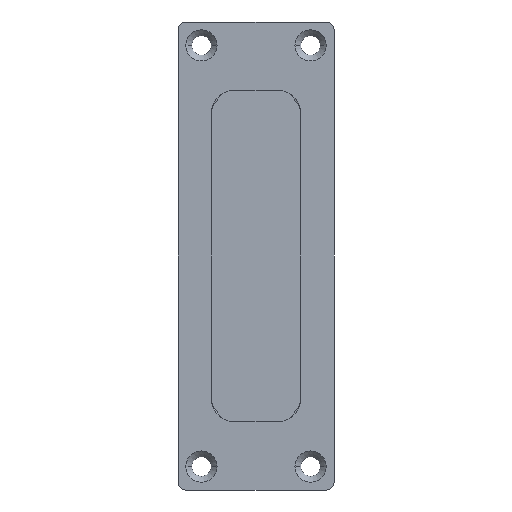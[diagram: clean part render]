
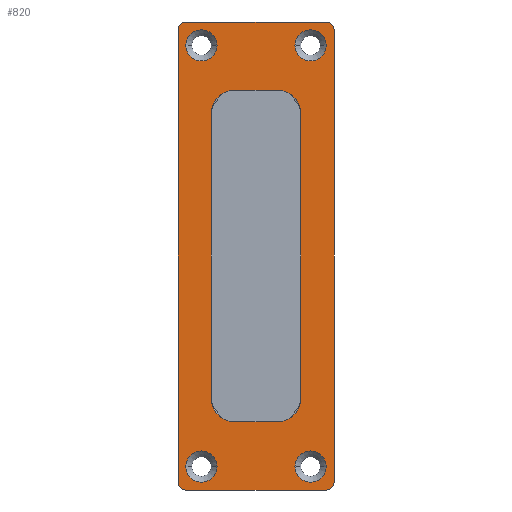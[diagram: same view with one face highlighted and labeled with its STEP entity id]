
A CAD part, front view. The second image highlights one B-rep face of the part: STEP entity #820.
In plain terms, the highlighted planar face has unit normal (0, -1, 0).
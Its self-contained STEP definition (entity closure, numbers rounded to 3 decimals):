
#820=ADVANCED_FACE('',(#1535,#1536,#1537,#1538,#1539,#1540),#1541,.T.);
#1535=FACE_BOUND('',#2493,.T.);
#1536=FACE_BOUND('',#2494,.T.);
#1537=FACE_BOUND('',#2495,.T.);
#1538=FACE_BOUND('',#2496,.T.);
#1539=FACE_OUTER_BOUND('',#2497,.T.);
#1540=FACE_BOUND('',#2498,.T.);
#1541=PLANE('',#2499);
#2493=EDGE_LOOP('',(#3510,#3511));
#2494=EDGE_LOOP('',(#3512,#3513));
#2495=EDGE_LOOP('',(#3514,#3515));
#2496=EDGE_LOOP('',(#3516,#3517));
#2497=EDGE_LOOP('',(#3518,#3519,#3520,#3521,#3522,#3523,#3524,#3525,#3526,#3527,#3528,#3529));
#2498=EDGE_LOOP('',(#3530,#3531,#3532,#3533,#3534,#3535,#3536,#3537));
#2499=AXIS2_PLACEMENT_3D('',#3538,#3539,#3540);
#3510=ORIENTED_EDGE('',*,*,#4436,.T.);
#3511=ORIENTED_EDGE('',*,*,#4608,.T.);
#3512=ORIENTED_EDGE('',*,*,#4401,.T.);
#3513=ORIENTED_EDGE('',*,*,#4658,.T.);
#3514=ORIENTED_EDGE('',*,*,#4406,.T.);
#3515=ORIENTED_EDGE('',*,*,#4656,.T.);
#3516=ORIENTED_EDGE('',*,*,#4411,.T.);
#3517=ORIENTED_EDGE('',*,*,#4654,.T.);
#3518=ORIENTED_EDGE('',*,*,#4416,.F.);
#3519=ORIENTED_EDGE('',*,*,#4650,.T.);
#3520=ORIENTED_EDGE('',*,*,#4647,.F.);
#3521=ORIENTED_EDGE('',*,*,#4421,.F.);
#3522=ORIENTED_EDGE('',*,*,#4645,.T.);
#3523=ORIENTED_EDGE('',*,*,#4642,.F.);
#3524=ORIENTED_EDGE('',*,*,#4426,.F.);
#3525=ORIENTED_EDGE('',*,*,#4640,.T.);
#3526=ORIENTED_EDGE('',*,*,#4637,.F.);
#3527=ORIENTED_EDGE('',*,*,#4431,.F.);
#3528=ORIENTED_EDGE('',*,*,#4635,.T.);
#3529=ORIENTED_EDGE('',*,*,#4652,.F.);
#3530=ORIENTED_EDGE('',*,*,#4632,.T.);
#3531=ORIENTED_EDGE('',*,*,#4629,.T.);
#3532=ORIENTED_EDGE('',*,*,#4626,.T.);
#3533=ORIENTED_EDGE('',*,*,#4623,.T.);
#3534=ORIENTED_EDGE('',*,*,#4620,.T.);
#3535=ORIENTED_EDGE('',*,*,#4617,.T.);
#3536=ORIENTED_EDGE('',*,*,#4614,.T.);
#3537=ORIENTED_EDGE('',*,*,#4610,.T.);
#3538=CARTESIAN_POINT('',(0.,-2.0,0.0));
#3539=DIRECTION('',(0.0,-1.0,0.0));
#3540=DIRECTION('',(0.0,0.0,-1.0));
#4401=EDGE_CURVE('',#5159,#5163,#5165,.T.);
#4406=EDGE_CURVE('',#5168,#5172,#5174,.T.);
#4411=EDGE_CURVE('',#5177,#5181,#5183,.T.);
#4416=EDGE_CURVE('',#5190,#5186,#5192,.T.);
#4421=EDGE_CURVE('',#5199,#5195,#5201,.T.);
#4426=EDGE_CURVE('',#5208,#5204,#5210,.T.);
#4431=EDGE_CURVE('',#5217,#5213,#5219,.T.);
#4436=EDGE_CURVE('',#5222,#5226,#5228,.T.);
#4608=EDGE_CURVE('',#5226,#5222,#5484,.T.);
#4610=EDGE_CURVE('',#5486,#5487,#5488,.T.);
#4614=EDGE_CURVE('',#5492,#5486,#5493,.T.);
#4617=EDGE_CURVE('',#5496,#5492,#5497,.T.);
#4620=EDGE_CURVE('',#5500,#5496,#5501,.T.);
#4623=EDGE_CURVE('',#5504,#5500,#5505,.T.);
#4626=EDGE_CURVE('',#5508,#5504,#5509,.T.);
#4629=EDGE_CURVE('',#5512,#5508,#5513,.T.);
#4632=EDGE_CURVE('',#5487,#5512,#5516,.T.);
#4635=EDGE_CURVE('',#5217,#5518,#5520,.T.);
#4637=EDGE_CURVE('',#5213,#5522,#5523,.T.);
#4640=EDGE_CURVE('',#5208,#5522,#5526,.T.);
#4642=EDGE_CURVE('',#5204,#5528,#5529,.T.);
#4645=EDGE_CURVE('',#5199,#5528,#5532,.T.);
#4647=EDGE_CURVE('',#5195,#5534,#5535,.T.);
#4650=EDGE_CURVE('',#5190,#5534,#5538,.T.);
#4652=EDGE_CURVE('',#5186,#5518,#5540,.T.);
#4654=EDGE_CURVE('',#5181,#5177,#5542,.T.);
#4656=EDGE_CURVE('',#5172,#5168,#5544,.T.);
#4658=EDGE_CURVE('',#5163,#5159,#5546,.T.);
#5159=VERTEX_POINT('',#5871);
#5163=VERTEX_POINT('',#5876);
#5165=CIRCLE('',#5879,4.0);
#5168=VERTEX_POINT('',#5882);
#5172=VERTEX_POINT('',#5887);
#5174=CIRCLE('',#5890,4.0);
#5177=VERTEX_POINT('',#5893);
#5181=VERTEX_POINT('',#5898);
#5183=CIRCLE('',#5901,4.0);
#5186=VERTEX_POINT('',#5904);
#5190=VERTEX_POINT('',#5909);
#5192=CIRCLE('',#5912,2.0);
#5195=VERTEX_POINT('',#5915);
#5199=VERTEX_POINT('',#5920);
#5201=CIRCLE('',#5923,2.0);
#5204=VERTEX_POINT('',#5926);
#5208=VERTEX_POINT('',#5931);
#5210=CIRCLE('',#5934,2.0);
#5213=VERTEX_POINT('',#5937);
#5217=VERTEX_POINT('',#5942);
#5219=CIRCLE('',#5945,2.0);
#5222=VERTEX_POINT('',#5948);
#5226=VERTEX_POINT('',#5953);
#5228=CIRCLE('',#5956,4.0);
#5484=CIRCLE('',#6288,4.0);
#5486=VERTEX_POINT('',#6290);
#5487=VERTEX_POINT('',#6291);
#5488=LINE('',#6292,#6293);
#5492=VERTEX_POINT('',#6299);
#5493=CIRCLE('',#6300,6.);
#5496=VERTEX_POINT('',#6304);
#5497=LINE('',#6305,#6306);
#5500=VERTEX_POINT('',#6310);
#5501=CIRCLE('',#6311,6.0);
#5504=VERTEX_POINT('',#6315);
#5505=LINE('',#6316,#6317);
#5508=VERTEX_POINT('',#6321);
#5509=CIRCLE('',#6322,6.);
#5512=VERTEX_POINT('',#6326);
#5513=LINE('',#6327,#6328);
#5516=CIRCLE('',#6332,6.0);
#5518=VERTEX_POINT('',#6334);
#5520=LINE('',#6337,#6338);
#5522=VERTEX_POINT('',#6340);
#5523=CIRCLE('',#6341,2.0);
#5526=LINE('',#6345,#6346);
#5528=VERTEX_POINT('',#6348);
#5529=CIRCLE('',#6349,2.0);
#5532=LINE('',#6353,#6354);
#5534=VERTEX_POINT('',#6356);
#5535=CIRCLE('',#6357,2.0);
#5538=LINE('',#6361,#6362);
#5540=CIRCLE('',#6364,2.0);
#5542=CIRCLE('',#6366,4.0);
#5544=CIRCLE('',#6368,4.0);
#5546=CIRCLE('',#6370,4.0);
#5871=CARTESIAN_POINT('',(-18.0,-2.0,54.0));
#5876=CARTESIAN_POINT('',(-10.,-2.0,54.0));
#5879=AXIS2_PLACEMENT_3D('',#6756,#6757,#6758);
#5882=CARTESIAN_POINT('',(10.,-2.0,54.0));
#5887=CARTESIAN_POINT('',(18.,-2.0,54.0));
#5890=AXIS2_PLACEMENT_3D('',#6764,#6765,#6766);
#5893=CARTESIAN_POINT('',(10.,-2.0,-54.0));
#5898=CARTESIAN_POINT('',(18.,-2.0,-54.0));
#5901=AXIS2_PLACEMENT_3D('',#6772,#6773,#6774);
#5904=CARTESIAN_POINT('',(19.414,-2.0,-59.414));
#5909=CARTESIAN_POINT('',(20.0,-2.0,-58.0));
#5912=AXIS2_PLACEMENT_3D('',#6780,#6781,#6782);
#5915=CARTESIAN_POINT('',(19.414,-2.0,59.414));
#5920=CARTESIAN_POINT('',(18.0,-2.0,60.0));
#5923=AXIS2_PLACEMENT_3D('',#6788,#6789,#6790);
#5926=CARTESIAN_POINT('',(-19.414,-2.0,59.414));
#5931=CARTESIAN_POINT('',(-20.0,-2.0,58.0));
#5934=AXIS2_PLACEMENT_3D('',#6796,#6797,#6798);
#5937=CARTESIAN_POINT('',(-19.414,-2.0,-59.414));
#5942=CARTESIAN_POINT('',(-18.0,-2.0,-60.0));
#5945=AXIS2_PLACEMENT_3D('',#6804,#6805,#6806);
#5948=CARTESIAN_POINT('',(-18.0,-2.0,-54.0));
#5953=CARTESIAN_POINT('',(-10.,-2.0,-54.0));
#5956=AXIS2_PLACEMENT_3D('',#6812,#6813,#6814);
#6288=AXIS2_PLACEMENT_3D('',#7047,#7048,#7049);
#6290=CARTESIAN_POINT('',(5.5,-2.0,-42.5));
#6291=CARTESIAN_POINT('',(-5.5,-2.0,-42.5));
#6292=CARTESIAN_POINT('',(-2.75,-2.0,-42.5));
#6293=VECTOR('',#7050,1.0);
#6299=CARTESIAN_POINT('',(11.5,-2.0,-36.5));
#6300=AXIS2_PLACEMENT_3D('',#7053,#7054,#7055);
#6304=CARTESIAN_POINT('',(11.5,-2.0,36.5));
#6305=CARTESIAN_POINT('',(11.5,-2.0,-18.25));
#6306=VECTOR('',#7057,1.0);
#6310=CARTESIAN_POINT('',(5.5,-2.0,42.5));
#6311=AXIS2_PLACEMENT_3D('',#7059,#7060,#7061);
#6315=CARTESIAN_POINT('',(-5.5,-2.0,42.5));
#6316=CARTESIAN_POINT('',(2.75,-2.0,42.5));
#6317=VECTOR('',#7063,1.0);
#6321=CARTESIAN_POINT('',(-11.5,-2.0,36.5));
#6322=AXIS2_PLACEMENT_3D('',#7065,#7066,#7067);
#6326=CARTESIAN_POINT('',(-11.5,-2.0,-36.5));
#6327=CARTESIAN_POINT('',(-11.5,-2.0,18.25));
#6328=VECTOR('',#7069,1.0);
#6332=AXIS2_PLACEMENT_3D('',#7071,#7072,#7073);
#6334=CARTESIAN_POINT('',(18.0,-2.0,-60.0));
#6337=CARTESIAN_POINT('',(-20.0,-2.0,-60.0));
#6338=VECTOR('',#7075,1.0);
#6340=CARTESIAN_POINT('',(-20.0,-2.0,-58.0));
#6341=AXIS2_PLACEMENT_3D('',#7076,#7077,#7078);
#6345=CARTESIAN_POINT('',(-20.0,-2.0,60.0));
#6346=VECTOR('',#7080,1.0);
#6348=CARTESIAN_POINT('',(-18.0,-2.0,60.0));
#6349=AXIS2_PLACEMENT_3D('',#7081,#7082,#7083);
#6353=CARTESIAN_POINT('',(20.0,-2.0,60.0));
#6354=VECTOR('',#7085,1.0);
#6356=CARTESIAN_POINT('',(20.0,-2.0,58.0));
#6357=AXIS2_PLACEMENT_3D('',#7086,#7087,#7088);
#6361=CARTESIAN_POINT('',(20.0,-2.0,-60.0));
#6362=VECTOR('',#7090,1.0);
#6364=AXIS2_PLACEMENT_3D('',#7091,#7092,#7093);
#6366=AXIS2_PLACEMENT_3D('',#7094,#7095,#7096);
#6368=AXIS2_PLACEMENT_3D('',#7097,#7098,#7099);
#6370=AXIS2_PLACEMENT_3D('',#7100,#7101,#7102);
#6756=CARTESIAN_POINT('',(-14.0,-2.0,54.0));
#6757=DIRECTION('',(0.0,1.0,0.0));
#6758=DIRECTION('',(-1.0,0.0,0.0));
#6764=CARTESIAN_POINT('',(14.,-2.0,54.0));
#6765=DIRECTION('',(0.0,1.0,0.0));
#6766=DIRECTION('',(-1.0,0.0,0.0));
#6772=CARTESIAN_POINT('',(14.,-2.0,-54.0));
#6773=DIRECTION('',(0.0,1.0,0.0));
#6774=DIRECTION('',(-1.0,0.0,0.0));
#6780=CARTESIAN_POINT('',(18.0,-2.0,-58.0));
#6781=DIRECTION('',(0.0,1.0,0.0));
#6782=DIRECTION('',(0.707,0.0,-0.707));
#6788=CARTESIAN_POINT('',(18.0,-2.0,58.0));
#6789=DIRECTION('',(-0.0,1.0,0.0));
#6790=DIRECTION('',(0.707,0.0,0.707));
#6796=CARTESIAN_POINT('',(-18.0,-2.0,58.0));
#6797=DIRECTION('',(0.0,1.0,0.0));
#6798=DIRECTION('',(-0.707,0.0,0.707));
#6804=CARTESIAN_POINT('',(-18.0,-2.0,-58.0));
#6805=DIRECTION('',(0.0,1.0,0.0));
#6806=DIRECTION('',(-0.707,0.0,-0.707));
#6812=CARTESIAN_POINT('',(-14.0,-2.0,-54.0));
#6813=DIRECTION('',(0.0,1.0,0.0));
#6814=DIRECTION('',(-1.0,0.0,0.0));
#7047=CARTESIAN_POINT('',(-14.0,-2.0,-54.0));
#7048=DIRECTION('',(0.0,1.0,0.0));
#7049=DIRECTION('',(-1.0,0.0,0.0));
#7050=DIRECTION('',(-1.0,0.0,0.0));
#7053=CARTESIAN_POINT('',(5.5,-2.0,-36.5));
#7054=DIRECTION('',(0.0,1.0,0.0));
#7055=DIRECTION('',(0.,0.0,-1.0));
#7057=DIRECTION('',(0.0,0.0,-1.0));
#7059=CARTESIAN_POINT('',(5.5,-2.0,36.5));
#7060=DIRECTION('',(-0.0,1.0,0.0));
#7061=DIRECTION('',(1.0,0.0,0.0));
#7063=DIRECTION('',(1.0,0.0,0.0));
#7065=CARTESIAN_POINT('',(-5.5,-2.0,36.5));
#7066=DIRECTION('',(0.0,1.0,0.0));
#7067=DIRECTION('',(0.,0.0,1.0));
#7069=DIRECTION('',(0.0,0.0,1.0));
#7071=CARTESIAN_POINT('',(-5.5,-2.0,-36.5));
#7072=DIRECTION('',(0.0,1.0,0.0));
#7073=DIRECTION('',(-1.0,0.0,0.0));
#7075=DIRECTION('',(1.0,0.0,0.0));
#7076=CARTESIAN_POINT('',(-18.0,-2.0,-58.0));
#7077=DIRECTION('',(0.0,1.0,0.0));
#7078=DIRECTION('',(-0.707,0.0,-0.707));
#7080=DIRECTION('',(0.0,0.0,-1.0));
#7081=CARTESIAN_POINT('',(-18.0,-2.0,58.0));
#7082=DIRECTION('',(0.0,1.0,0.0));
#7083=DIRECTION('',(-0.707,0.0,0.707));
#7085=DIRECTION('',(-1.0,0.0,0.0));
#7086=CARTESIAN_POINT('',(18.0,-2.0,58.0));
#7087=DIRECTION('',(-0.0,1.0,0.0));
#7088=DIRECTION('',(0.707,0.0,0.707));
#7090=DIRECTION('',(0.0,0.0,1.0));
#7091=CARTESIAN_POINT('',(18.0,-2.0,-58.0));
#7092=DIRECTION('',(0.0,1.0,0.0));
#7093=DIRECTION('',(0.707,0.0,-0.707));
#7094=CARTESIAN_POINT('',(14.,-2.0,-54.0));
#7095=DIRECTION('',(0.0,1.0,0.0));
#7096=DIRECTION('',(-1.0,0.0,0.0));
#7097=CARTESIAN_POINT('',(14.,-2.0,54.0));
#7098=DIRECTION('',(0.0,1.0,0.0));
#7099=DIRECTION('',(-1.0,0.0,0.0));
#7100=CARTESIAN_POINT('',(-14.0,-2.0,54.0));
#7101=DIRECTION('',(0.0,1.0,0.0));
#7102=DIRECTION('',(-1.0,0.0,0.0));
